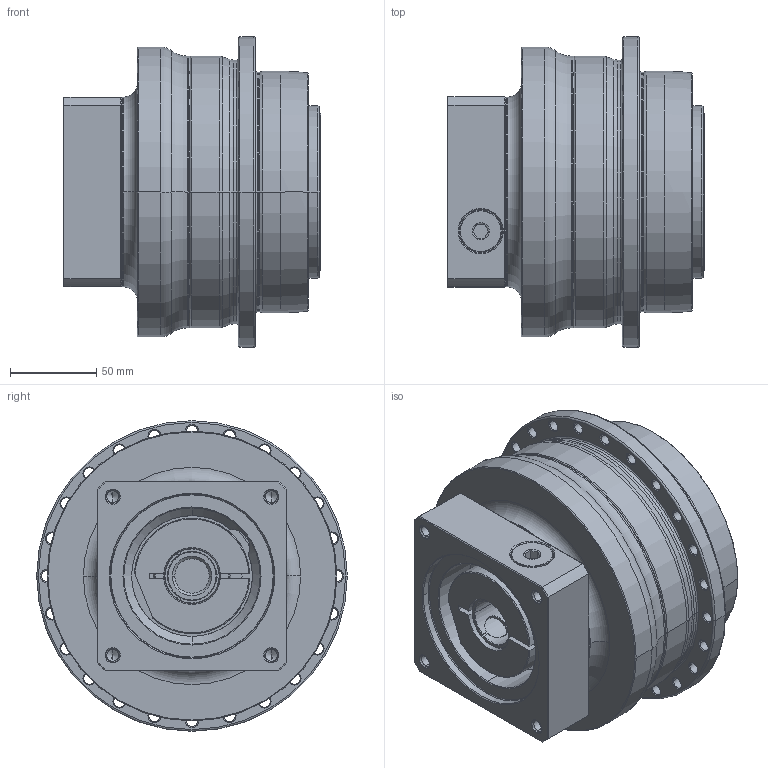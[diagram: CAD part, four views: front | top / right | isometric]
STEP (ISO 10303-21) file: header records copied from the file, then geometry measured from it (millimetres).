
FILE_DESCRIPTION((''),'2;1');
FILE_NAME('AP140_1ST_28-P0409610201_ASM','2018-05-24T',('d01226'),(''),'PRO/ENGINEER BY PARAMETRIC TECHNOLOGY CORPORATION, 2008410','PRO/ENGINEER BY PARAMETRIC TECHNOLOGY CORPORATION, 2008410','');
FILE_SCHEMA(('CONFIG_CONTROL_DESIGN'));
Length unit declared in the file: millimetre
Products named in the file (9): P0278501003; P0359501103; P1318510101; P0503600010; P0912551001; P1211500001; P0409610201; 21711418017; AP140_1ST_28-P0409610201_ASM
Assembly tree (8 placements, depth 2):
  AP140_1ST_28-P0409610201_ASM
    P0278501003
    P0359501103
    P1318510101
    P0503600010
    P0912551001
    P1211500001
    P0409610201
    21711418017
Bounding box: 149.5 x 180 x 180 mm (x, y, z)
Volume: 2143199.3 mm3; surface area: 290105.1 mm2
Topology: 9 solids, 34 shells, 641 faces, 1493 edges, 922 vertices
Faces by surface type: cylinder 271, cone 177, plane 108, torus 71, bspline 14
Entity records: 23475 total; most frequent: CARTESIAN_POINT 8021, DIRECTION 3555, ORIENTED_EDGE 2868, AXIS2_PLACEMENT_3D 1521, EDGE_CURVE 1485, VERTEX_POINT 922, CIRCLE 867, EDGE_LOOP 797
